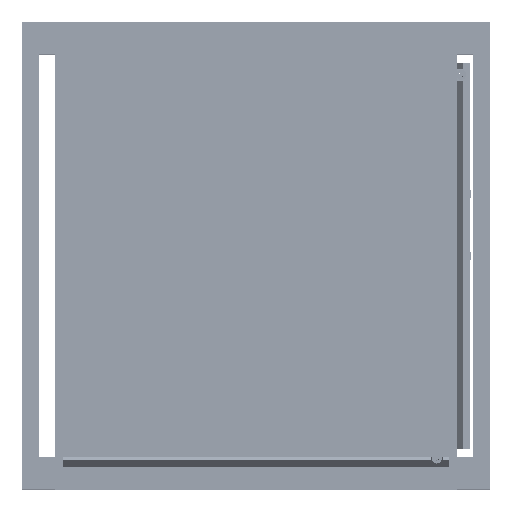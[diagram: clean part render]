
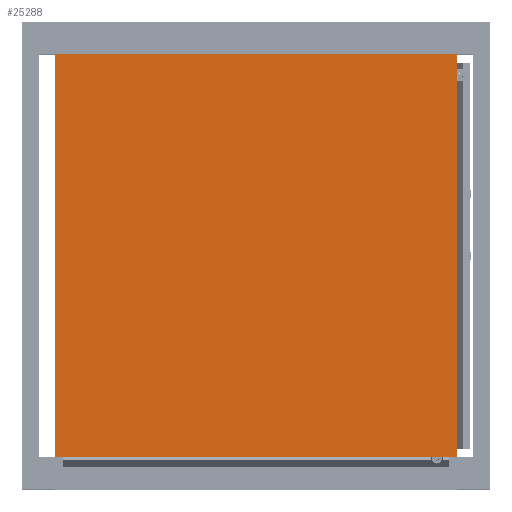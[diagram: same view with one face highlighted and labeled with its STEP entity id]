
A CAD part, top view. The second image highlights one B-rep face of the part: STEP entity #25288.
In plain terms, the highlighted planar face has unit normal (0, 0, 1).
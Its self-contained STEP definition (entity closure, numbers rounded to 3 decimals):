
#4933=FACE_OUTER_BOUND('',#6770,.T.);
#6770=EDGE_LOOP('',(#20555,#20556,#20557,#20558));
#8558=LINE('',#42516,#10772);
#8559=LINE('',#42518,#10773);
#8560=LINE('',#42520,#10774);
#8561=LINE('',#42521,#10775);
#10772=VECTOR('',#33862,990.);
#10773=VECTOR('',#33863,990.);
#10774=VECTOR('',#33864,990.);
#10775=VECTOR('',#33865,990.);
#13165=VERTEX_POINT('',#42514);
#13166=VERTEX_POINT('',#42515);
#13167=VERTEX_POINT('',#42517);
#13168=VERTEX_POINT('',#42519);
#15790=EDGE_CURVE('',#13165,#13166,#8558,.T.);
#15791=EDGE_CURVE('',#13167,#13165,#8559,.T.);
#15792=EDGE_CURVE('',#13168,#13167,#8560,.T.);
#15793=EDGE_CURVE('',#13166,#13168,#8561,.T.);
#20555=ORIENTED_EDGE('',*,*,#15790,.F.);
#20556=ORIENTED_EDGE('',*,*,#15791,.F.);
#20557=ORIENTED_EDGE('',*,*,#15792,.F.);
#20558=ORIENTED_EDGE('',*,*,#15793,.F.);
#23940=PLANE('',#28599);
#25288=ADVANCED_FACE('',(#4933),#23940,.T.);
#28599=AXIS2_PLACEMENT_3D('',#42513,#33860,#33861);
#33860=DIRECTION('center_axis',(0.,0.,1.));
#33861=DIRECTION('ref_axis',(1.,0.,0.));
#33862=DIRECTION('',(0.,1.,0.));
#33863=DIRECTION('',(-1.,0.,0.));
#33864=DIRECTION('',(0.,-1.,0.));
#33865=DIRECTION('',(1.,0.,0.));
#42513=CARTESIAN_POINT('Origin',(0.,0.,0.));
#42514=CARTESIAN_POINT('',(-495.,-495.,0.));
#42515=CARTESIAN_POINT('',(-495.,495.,0.));
#42516=CARTESIAN_POINT('',(-495.,-495.,0.));
#42517=CARTESIAN_POINT('',(495.,-495.,0.));
#42518=CARTESIAN_POINT('',(495.,-495.,0.));
#42519=CARTESIAN_POINT('',(495.,495.,0.));
#42520=CARTESIAN_POINT('',(495.,495.,0.));
#42521=CARTESIAN_POINT('',(-495.,495.,0.));
